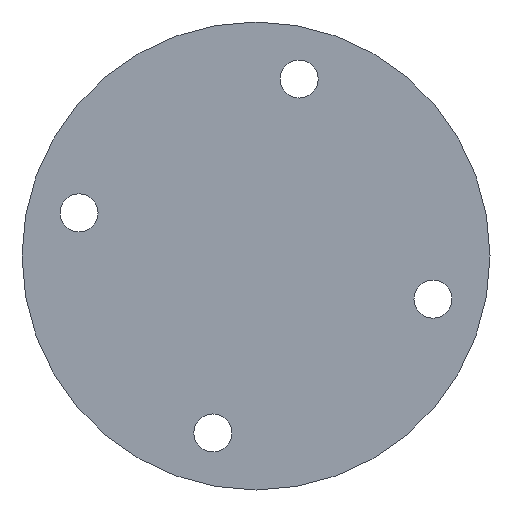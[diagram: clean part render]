
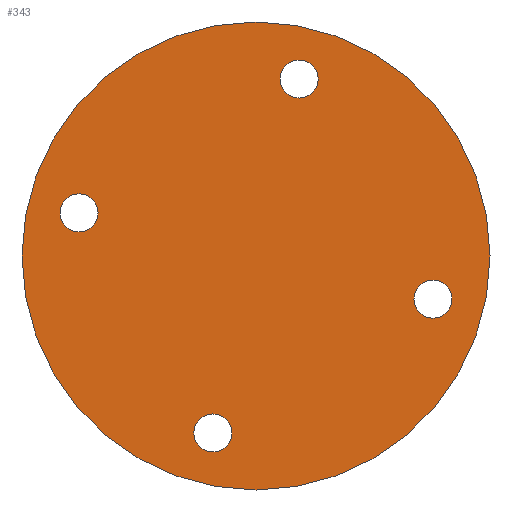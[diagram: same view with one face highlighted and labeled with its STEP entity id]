
A CAD part, front view. The second image highlights one B-rep face of the part: STEP entity #343.
In plain terms, the highlighted planar face has unit normal (0, -1, 0).
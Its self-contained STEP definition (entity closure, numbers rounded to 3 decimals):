
#82=FACE_BOUND('',#118,.T.);
#83=FACE_BOUND('',#119,.T.);
#84=FACE_BOUND('',#120,.T.);
#85=FACE_BOUND('',#121,.T.);
#89=FACE_OUTER_BOUND('',#117,.T.);
#117=EDGE_LOOP('',(#258));
#118=EDGE_LOOP('',(#259));
#119=EDGE_LOOP('',(#260));
#120=EDGE_LOOP('',(#261));
#121=EDGE_LOOP('',(#262));
#151=CIRCLE('',#388,32.125);
#152=CIRCLE('',#390,2.61);
#153=CIRCLE('',#391,2.61);
#154=CIRCLE('',#392,2.61);
#155=CIRCLE('',#393,2.61);
#177=VERTEX_POINT('',#562);
#178=VERTEX_POINT('',#566);
#179=VERTEX_POINT('',#568);
#180=VERTEX_POINT('',#570);
#181=VERTEX_POINT('',#572);
#208=EDGE_CURVE('',#177,#177,#151,.T.);
#210=EDGE_CURVE('',#178,#178,#152,.T.);
#211=EDGE_CURVE('',#179,#179,#153,.T.);
#212=EDGE_CURVE('',#180,#180,#154,.T.);
#213=EDGE_CURVE('',#181,#181,#155,.T.);
#258=ORIENTED_EDGE('',*,*,#208,.F.);
#259=ORIENTED_EDGE('',*,*,#210,.F.);
#260=ORIENTED_EDGE('',*,*,#211,.F.);
#261=ORIENTED_EDGE('',*,*,#212,.F.);
#262=ORIENTED_EDGE('',*,*,#213,.F.);
#333=PLANE('',#389);
#343=ADVANCED_FACE('',(#89,#82,#83,#84,#85),#333,.F.);
#388=AXIS2_PLACEMENT_3D('',#563,#449,#450);
#389=AXIS2_PLACEMENT_3D('',#565,#452,#453);
#390=AXIS2_PLACEMENT_3D('',#567,#454,#455);
#391=AXIS2_PLACEMENT_3D('',#569,#456,#457);
#392=AXIS2_PLACEMENT_3D('',#571,#458,#459);
#393=AXIS2_PLACEMENT_3D('',#573,#460,#461);
#449=DIRECTION('center_axis',(0.,1.,0.));
#450=DIRECTION('ref_axis',(0.,0.,1.));
#452=DIRECTION('center_axis',(0.,1.,0.));
#453=DIRECTION('ref_axis',(0.,0.,1.));
#454=DIRECTION('center_axis',(0.,-1.,0.));
#455=DIRECTION('ref_axis',(0.,0.,-1.));
#456=DIRECTION('center_axis',(0.,-1.,0.));
#457=DIRECTION('ref_axis',(0.,0.,-1.));
#458=DIRECTION('center_axis',(0.,-1.,0.));
#459=DIRECTION('ref_axis',(0.,0.,-1.));
#460=DIRECTION('center_axis',(0.,-1.,0.));
#461=DIRECTION('ref_axis',(0.,0.,-1.));
#562=CARTESIAN_POINT('',(0.,0.,32.125));
#563=CARTESIAN_POINT('Origin',(0.,0.,0.));
#565=CARTESIAN_POINT('Origin',(0.,0.,0.));
#566=CARTESIAN_POINT('',(24.292,0.,-3.313));
#567=CARTESIAN_POINT('Origin',(24.292,0.,-5.923));
#568=CARTESIAN_POINT('',(-5.922,0.,-21.681));
#569=CARTESIAN_POINT('Origin',(-5.922,0.,
-24.29));
#570=CARTESIAN_POINT('',(-24.291,0.,8.532));
#571=CARTESIAN_POINT('Origin',(-24.291,0.,
5.922));
#572=CARTESIAN_POINT('',(5.923,0.,26.902));
#573=CARTESIAN_POINT('Origin',(5.923,0.,24.292));
